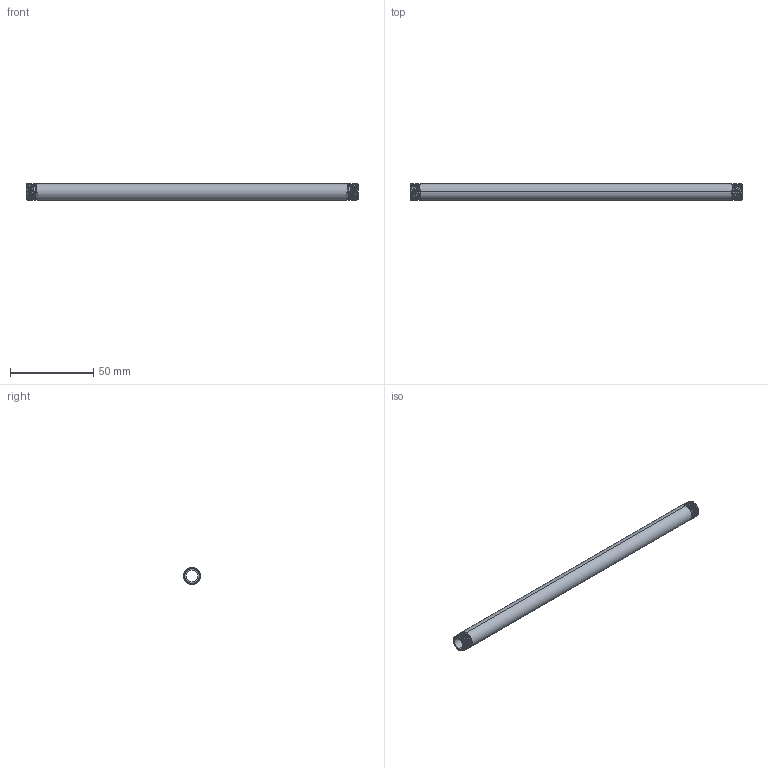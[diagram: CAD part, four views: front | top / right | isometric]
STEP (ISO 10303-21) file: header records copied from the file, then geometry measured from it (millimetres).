
FILE_DESCRIPTION (( 'STEP AP203' ), '1' );
FILE_NAME ('3D_R210_1-8x200_17185600.STEP', '2024-08-16T10:52:43', ( '' ), ( '' ), 'SwSTEP 2.0', 'SolidWorks 2024', '' );
FILE_SCHEMA (( 'CONFIG_CONTROL_DESIGN' ));
Length unit declared in the file: millimetre
Products named in the file (1): 3D_R210_1-8x200_17185600
Bounding box: 200 x 10.18 x 10.2 mm (x, y, z)
Volume: 8065.4 mm3; surface area: 11154.1 mm2
Topology: 1 solids, 1 shells, 44 faces, 118 edges, 76 vertices
Faces by surface type: cone 30, bspline 6, cylinder 4, plane 4
Entity records: 5593 total; most frequent: CARTESIAN_POINT 4559, ORIENTED_EDGE 236, DIRECTION 146, EDGE_CURVE 118, VERTEX_POINT 76, B_SPLINE_CURVE_WITH_KNOTS 56, AXIS2_PLACEMENT_3D 53, EDGE_LOOP 46
